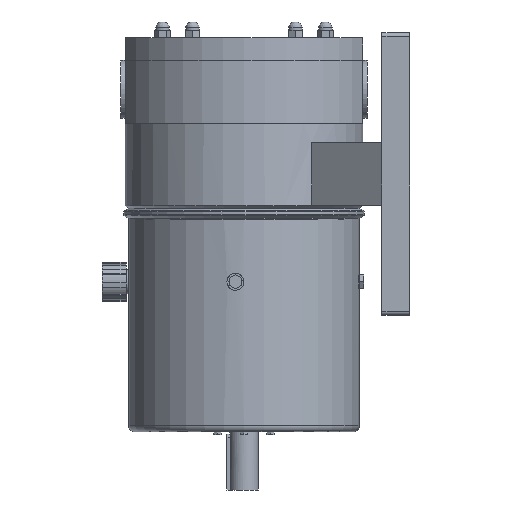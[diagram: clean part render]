
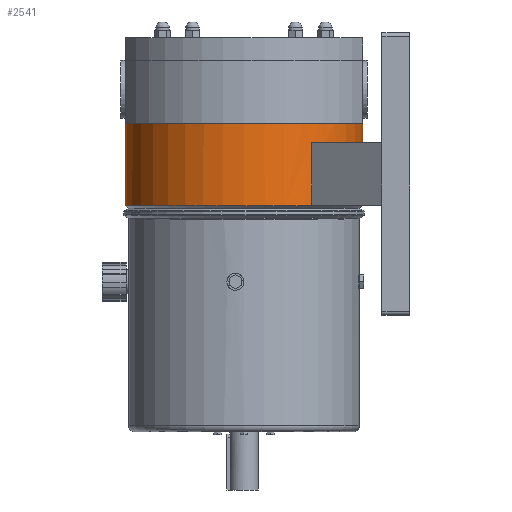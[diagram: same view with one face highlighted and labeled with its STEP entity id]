
A CAD part, left-side view. The second image highlights one B-rep face of the part: STEP entity #2541.
In plain terms, the highlighted cylindrical face has radius 210 mm (diameter 420 mm), a full revolution.
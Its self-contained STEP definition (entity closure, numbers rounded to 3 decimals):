
#1980=CARTESIAN_POINT('',(2.049,209.99,-150.8));
#1981=VERTEX_POINT('',#1980);
#1982=CARTESIAN_POINT('',(-2.049,209.99,-150.8));
#1983=VERTEX_POINT('',#1982);
#1984=CARTESIAN_POINT('',(0.0,0.0,-150.8));
#1985=DIRECTION('',(0.0,0.0,1.0));
#1986=DIRECTION('',(0.0,1.0,0.0));
#1987=AXIS2_PLACEMENT_3D('',#1984,#1985,#1986);
#1988=CIRCLE('',#1987,210.0);
#1989=EDGE_CURVE('',#1981,#1983,#1988,.T.);
#2084=CARTESIAN_POINT('',(-2.049,-209.99,-150.8));
#2085=VERTEX_POINT('',#2084);
#2086=CARTESIAN_POINT('',(2.049,-209.99,-150.8));
#2087=VERTEX_POINT('',#2086);
#2088=CARTESIAN_POINT('',(0.0,0.0,-150.8));
#2089=DIRECTION('',(0.0,0.0,1.0));
#2090=DIRECTION('',(0.0,1.0,0.0));
#2091=AXIS2_PLACEMENT_3D('',#2088,#2089,#2090);
#2092=CIRCLE('',#2091,210.0);
#2093=EDGE_CURVE('',#2085,#2087,#2092,.T.);
#2232=CARTESIAN_POINT('',(0.0,0.0,-150.8));
#2233=DIRECTION('',(0.0,0.0,1.0));
#2234=DIRECTION('',(0.0,1.0,0.0));
#2235=AXIS2_PLACEMENT_3D('',#2232,#2233,#2234);
#2236=CIRCLE('',#2235,210.0);
#2237=EDGE_CURVE('',#1983,#2085,#2236,.T.);
#2311=CARTESIAN_POINT('',(0.0,0.0,-150.8));
#2312=DIRECTION('',(0.0,0.0,1.0));
#2313=DIRECTION('',(0.0,1.0,0.0));
#2314=AXIS2_PLACEMENT_3D('',#2311,#2312,#2313);
#2315=CIRCLE('',#2314,210.0);
#2316=EDGE_CURVE('',#2087,#1981,#2315,.T.);
#2447=CARTESIAN_POINT('',(0.0,0.0,-223.993));
#2448=DIRECTION('',(0.0,0.0,-1.0));
#2449=DIRECTION('',(0.0,1.0,0.0));
#2450=AXIS2_PLACEMENT_3D('',#2447,#2448,#2449);
#2451=CYLINDRICAL_SURFACE('',#2450,210.0);
#2452=CARTESIAN_POINT('',(0.0,210.0,-297.186));
#2453=VERTEX_POINT('',#2452);
#2454=CARTESIAN_POINT('',(0.0,0.0,-297.186));
#2455=DIRECTION('',(0.0,0.0,-1.0));
#2456=DIRECTION('',(0.0,1.0,0.0));
#2457=AXIS2_PLACEMENT_3D('',#2454,#2455,#2456);
#2458=CIRCLE('',#2457,210.0);
#2459=EDGE_CURVE('',#2453,#2453,#2458,.T.);
#2460=ORIENTED_EDGE('',*,*,#2459,.F.);
#2461=EDGE_LOOP('',(#2460));
#2462=FACE_OUTER_BOUND('',#2461,.T.);
#2463=CARTESIAN_POINT('',(172.515,-119.744,-295.8));
#2464=VERTEX_POINT('',#2463);
#2465=CARTESIAN_POINT('',(108.55,-179.769,-295.8));
#2466=VERTEX_POINT('',#2465);
#2467=CARTESIAN_POINT('',(0.0,0.0,-295.8));
#2468=DIRECTION('',(0.0,0.0,-1.0));
#2469=DIRECTION('',(0.0,1.0,0.0));
#2470=AXIS2_PLACEMENT_3D('',#2467,#2468,#2469);
#2471=CIRCLE('',#2470,210.0);
#2472=EDGE_CURVE('',#2464,#2466,#2471,.T.);
#2473=ORIENTED_EDGE('',*,*,#2472,.T.);
#2474=CARTESIAN_POINT('',(108.55,-179.769,-185.8));
#2475=VERTEX_POINT('',#2474);
#2476=CARTESIAN_POINT('',(108.55,-179.769,-295.8));
#2477=DIRECTION('',(0.0,0.0,1.0));
#2478=VECTOR('',#2477,110.0);
#2479=LINE('',#2476,#2478);
#2480=EDGE_CURVE('',#2466,#2475,#2479,.T.);
#2481=ORIENTED_EDGE('',*,*,#2480,.T.);
#2482=CARTESIAN_POINT('',(172.515,-119.744,-185.8));
#2483=VERTEX_POINT('',#2482);
#2484=CARTESIAN_POINT('',(0.0,0.0,-185.8));
#2485=DIRECTION('',(0.0,0.0,1.0));
#2486=DIRECTION('',(0.0,1.0,0.0));
#2487=AXIS2_PLACEMENT_3D('',#2484,#2485,#2486);
#2488=CIRCLE('',#2487,210.0);
#2489=EDGE_CURVE('',#2475,#2483,#2488,.T.);
#2490=ORIENTED_EDGE('',*,*,#2489,.T.);
#2491=CARTESIAN_POINT('',(172.515,-119.744,-185.8));
#2492=DIRECTION('',(0.0,0.0,-1.0));
#2493=VECTOR('',#2492,110.0);
#2494=LINE('',#2491,#2493);
#2495=EDGE_CURVE('',#2483,#2464,#2494,.T.);
#2496=ORIENTED_EDGE('',*,*,#2495,.T.);
#2497=EDGE_LOOP('',(#2473,#2481,#2490,#2496));
#2498=FACE_BOUND('',#2497,.T.);
#2499=CARTESIAN_POINT('',(-108.55,-179.769,-295.8));
#2500=VERTEX_POINT('',#2499);
#2501=CARTESIAN_POINT('',(-172.515,-119.744,-295.8));
#2502=VERTEX_POINT('',#2501);
#2503=CARTESIAN_POINT('',(0.0,0.0,-295.8));
#2504=DIRECTION('',(0.0,0.0,-1.0));
#2505=DIRECTION('',(0.0,1.0,0.0));
#2506=AXIS2_PLACEMENT_3D('',#2503,#2504,#2505);
#2507=CIRCLE('',#2506,210.0);
#2508=EDGE_CURVE('',#2500,#2502,#2507,.T.);
#2509=ORIENTED_EDGE('',*,*,#2508,.T.);
#2510=CARTESIAN_POINT('',(-172.515,-119.744,-185.8));
#2511=VERTEX_POINT('',#2510);
#2512=CARTESIAN_POINT('',(-172.515,-119.744,-295.8));
#2513=DIRECTION('',(0.0,0.0,1.0));
#2514=VECTOR('',#2513,110.0);
#2515=LINE('',#2512,#2514);
#2516=EDGE_CURVE('',#2502,#2511,#2515,.T.);
#2517=ORIENTED_EDGE('',*,*,#2516,.T.);
#2518=CARTESIAN_POINT('',(-108.55,-179.769,-185.8));
#2519=VERTEX_POINT('',#2518);
#2520=CARTESIAN_POINT('',(0.0,0.0,-185.8));
#2521=DIRECTION('',(0.0,0.0,1.0));
#2522=DIRECTION('',(0.0,1.0,0.0));
#2523=AXIS2_PLACEMENT_3D('',#2520,#2521,#2522);
#2524=CIRCLE('',#2523,210.0);
#2525=EDGE_CURVE('',#2511,#2519,#2524,.T.);
#2526=ORIENTED_EDGE('',*,*,#2525,.T.);
#2527=CARTESIAN_POINT('',(-108.55,-179.769,-185.8));
#2528=DIRECTION('',(0.0,0.0,-1.0));
#2529=VECTOR('',#2528,110.0);
#2530=LINE('',#2527,#2529);
#2531=EDGE_CURVE('',#2519,#2500,#2530,.T.);
#2532=ORIENTED_EDGE('',*,*,#2531,.T.);
#2533=EDGE_LOOP('',(#2509,#2517,#2526,#2532));
#2534=FACE_BOUND('',#2533,.T.);
#2535=ORIENTED_EDGE('',*,*,#1989,.F.);
#2536=ORIENTED_EDGE('',*,*,#2316,.F.);
#2537=ORIENTED_EDGE('',*,*,#2093,.F.);
#2538=ORIENTED_EDGE('',*,*,#2237,.F.);
#2539=EDGE_LOOP('',(#2535,#2536,#2537,#2538));
#2540=FACE_BOUND('',#2539,.T.);
#2541=ADVANCED_FACE('',(#2462,#2498,#2534,#2540),#2451,.T.);
